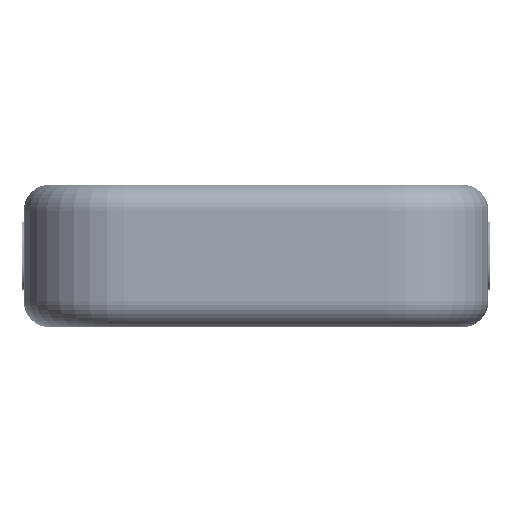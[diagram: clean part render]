
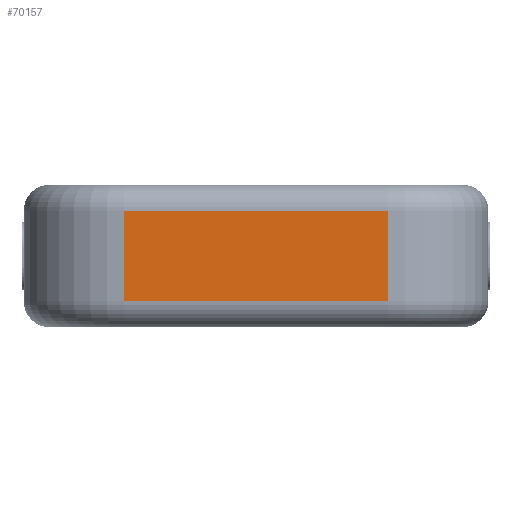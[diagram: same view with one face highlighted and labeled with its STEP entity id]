
A CAD part, front view. The second image highlights one B-rep face of the part: STEP entity #70157.
In plain terms, the highlighted planar face has unit normal (0, -1, 0).
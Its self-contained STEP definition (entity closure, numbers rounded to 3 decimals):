
#69050 = CYLINDRICAL_SURFACE('',#69051,19.);
#69051 = AXIS2_PLACEMENT_3D('',#69052,#69053,#69054);
#69052 = CARTESIAN_POINT('',(-25.,-49.,-13.5));
#69053 = DIRECTION('',(0.,0.,1.));
#69054 = DIRECTION('',(-1.,-0.,0.));
#69379 = VERTEX_POINT('',#69380);
#69380 = CARTESIAN_POINT('',(-25.,-68.,-8.5));
#69407 = EDGE_CURVE('',#69379,#69408,#69410,.T.);
#69408 = VERTEX_POINT('',#69409);
#69409 = CARTESIAN_POINT('',(-25.,-68.,8.5));
#69410 = SURFACE_CURVE('',#69411,(#69415,#69422),.PCURVE_S1.);
#69411 = LINE('',#69412,#69413);
#69412 = CARTESIAN_POINT('',(-25.,-68.,-13.5));
#69413 = VECTOR('',#69414,1.);
#69414 = DIRECTION('',(0.,0.,1.));
#69415 = PCURVE('',#69050,#69416);
#69416 = DEFINITIONAL_REPRESENTATION('',(#69417),#69421);
#69417 = LINE('',#69418,#69419);
#69418 = CARTESIAN_POINT('',(1.571,0.));
#69419 = VECTOR('',#69420,1.);
#69420 = DIRECTION('',(0.,1.));
#69421 = ( GEOMETRIC_REPRESENTATION_CONTEXT(2) 
PARAMETRIC_REPRESENTATION_CONTEXT() REPRESENTATION_CONTEXT('2D SPACE',''
  ) );
#69422 = PCURVE('',#69423,#69428);
#69423 = PLANE('',#69424);
#69424 = AXIS2_PLACEMENT_3D('',#69425,#69426,#69427);
#69425 = CARTESIAN_POINT('',(-44.,-68.,-13.5));
#69426 = DIRECTION('',(0.,1.,0.));
#69427 = DIRECTION('',(0.,-0.,1.));
#69428 = DEFINITIONAL_REPRESENTATION('',(#69429),#69433);
#69429 = LINE('',#69430,#69431);
#69430 = CARTESIAN_POINT('',(0.,19.));
#69431 = VECTOR('',#69432,1.);
#69432 = DIRECTION('',(1.,0.));
#69433 = ( GEOMETRIC_REPRESENTATION_CONTEXT(2) 
PARAMETRIC_REPRESENTATION_CONTEXT() REPRESENTATION_CONTEXT('2D SPACE',''
  ) );
#70118 = CYLINDRICAL_SURFACE('',#70119,5.);
#70119 = AXIS2_PLACEMENT_3D('',#70120,#70121,#70122);
#70120 = CARTESIAN_POINT('',(25.,-63.,-8.5));
#70121 = DIRECTION('',(-1.,-0.,-0.));
#70122 = DIRECTION('',(0.,-1.,0.));
#70157 = ADVANCED_FACE('',(#70158),#69423,.F.);
#70158 = FACE_BOUND('',#70159,.F.);
#70159 = EDGE_LOOP('',(#70160,#70161,#70189,#70217));
#70160 = ORIENTED_EDGE('',*,*,#69407,.T.);
#70161 = ORIENTED_EDGE('',*,*,#70162,.F.);
#70162 = EDGE_CURVE('',#70163,#69408,#70165,.T.);
#70163 = VERTEX_POINT('',#70164);
#70164 = CARTESIAN_POINT('',(25.,-68.,8.5));
#70165 = SURFACE_CURVE('',#70166,(#70170,#70177),.PCURVE_S1.);
#70166 = LINE('',#70167,#70168);
#70167 = CARTESIAN_POINT('',(25.,-68.,8.5));
#70168 = VECTOR('',#70169,1.);
#70169 = DIRECTION('',(-1.,-0.,-0.));
#70170 = PCURVE('',#69423,#70171);
#70171 = DEFINITIONAL_REPRESENTATION('',(#70172),#70176);
#70172 = LINE('',#70173,#70174);
#70173 = CARTESIAN_POINT('',(22.,69.));
#70174 = VECTOR('',#70175,1.);
#70175 = DIRECTION('',(0.,-1.));
#70176 = ( GEOMETRIC_REPRESENTATION_CONTEXT(2) 
PARAMETRIC_REPRESENTATION_CONTEXT() REPRESENTATION_CONTEXT('2D SPACE',''
  ) );
#70177 = PCURVE('',#70178,#70183);
#70178 = CYLINDRICAL_SURFACE('',#70179,5.);
#70179 = AXIS2_PLACEMENT_3D('',#70180,#70181,#70182);
#70180 = CARTESIAN_POINT('',(25.,-63.,8.5));
#70181 = DIRECTION('',(-1.,-0.,-0.));
#70182 = DIRECTION('',(0.,-1.,0.));
#70183 = DEFINITIONAL_REPRESENTATION('',(#70184),#70188);
#70184 = LINE('',#70185,#70186);
#70185 = CARTESIAN_POINT('',(0.,0.));
#70186 = VECTOR('',#70187,1.);
#70187 = DIRECTION('',(0.,1.));
#70188 = ( GEOMETRIC_REPRESENTATION_CONTEXT(2) 
PARAMETRIC_REPRESENTATION_CONTEXT() REPRESENTATION_CONTEXT('2D SPACE',''
  ) );
#70189 = ORIENTED_EDGE('',*,*,#70190,.F.);
#70190 = EDGE_CURVE('',#70191,#70163,#70193,.T.);
#70191 = VERTEX_POINT('',#70192);
#70192 = CARTESIAN_POINT('',(25.,-68.,-8.5));
#70193 = SURFACE_CURVE('',#70194,(#70198,#70205),.PCURVE_S1.);
#70194 = LINE('',#70195,#70196);
#70195 = CARTESIAN_POINT('',(25.,-68.,-13.5));
#70196 = VECTOR('',#70197,1.);
#70197 = DIRECTION('',(0.,0.,1.));
#70198 = PCURVE('',#69423,#70199);
#70199 = DEFINITIONAL_REPRESENTATION('',(#70200),#70204);
#70200 = LINE('',#70201,#70202);
#70201 = CARTESIAN_POINT('',(0.,69.));
#70202 = VECTOR('',#70203,1.);
#70203 = DIRECTION('',(1.,0.));
#70204 = ( GEOMETRIC_REPRESENTATION_CONTEXT(2) 
PARAMETRIC_REPRESENTATION_CONTEXT() REPRESENTATION_CONTEXT('2D SPACE',''
  ) );
#70205 = PCURVE('',#70206,#70211);
#70206 = CYLINDRICAL_SURFACE('',#70207,19.);
#70207 = AXIS2_PLACEMENT_3D('',#70208,#70209,#70210);
#70208 = CARTESIAN_POINT('',(25.,-49.,-13.5));
#70209 = DIRECTION('',(0.,0.,1.));
#70210 = DIRECTION('',(1.,0.,-0.));
#70211 = DEFINITIONAL_REPRESENTATION('',(#70212),#70216);
#70212 = LINE('',#70213,#70214);
#70213 = CARTESIAN_POINT('',(4.712,0.));
#70214 = VECTOR('',#70215,1.);
#70215 = DIRECTION('',(-0.,1.));
#70216 = ( GEOMETRIC_REPRESENTATION_CONTEXT(2) 
PARAMETRIC_REPRESENTATION_CONTEXT() REPRESENTATION_CONTEXT('2D SPACE',''
  ) );
#70217 = ORIENTED_EDGE('',*,*,#70218,.T.);
#70218 = EDGE_CURVE('',#70191,#69379,#70219,.T.);
#70219 = SURFACE_CURVE('',#70220,(#70224,#70231),.PCURVE_S1.);
#70220 = LINE('',#70221,#70222);
#70221 = CARTESIAN_POINT('',(25.,-68.,-8.5));
#70222 = VECTOR('',#70223,1.);
#70223 = DIRECTION('',(-1.,-0.,-0.));
#70224 = PCURVE('',#69423,#70225);
#70225 = DEFINITIONAL_REPRESENTATION('',(#70226),#70230);
#70226 = LINE('',#70227,#70228);
#70227 = CARTESIAN_POINT('',(5.,69.));
#70228 = VECTOR('',#70229,1.);
#70229 = DIRECTION('',(0.,-1.));
#70230 = ( GEOMETRIC_REPRESENTATION_CONTEXT(2) 
PARAMETRIC_REPRESENTATION_CONTEXT() REPRESENTATION_CONTEXT('2D SPACE',''
  ) );
#70231 = PCURVE('',#70118,#70232);
#70232 = DEFINITIONAL_REPRESENTATION('',(#70233),#70237);
#70233 = LINE('',#70234,#70235);
#70234 = CARTESIAN_POINT('',(6.283,0.));
#70235 = VECTOR('',#70236,1.);
#70236 = DIRECTION('',(-0.,1.));
#70237 = ( GEOMETRIC_REPRESENTATION_CONTEXT(2) 
PARAMETRIC_REPRESENTATION_CONTEXT() REPRESENTATION_CONTEXT('2D SPACE',''
  ) );
